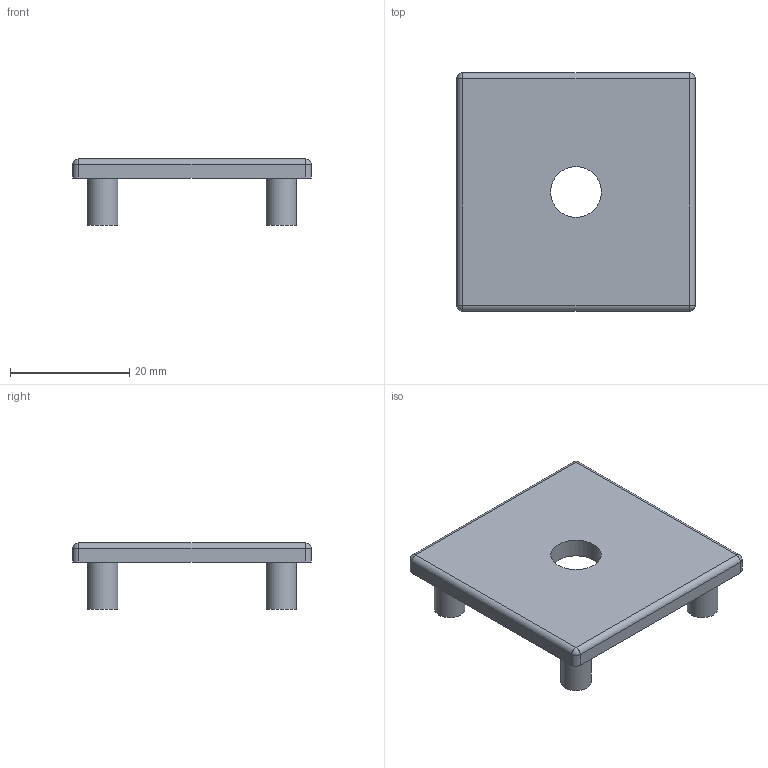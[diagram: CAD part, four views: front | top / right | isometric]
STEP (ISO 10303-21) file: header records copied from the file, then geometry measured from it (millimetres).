
FILE_DESCRIPTION((''),'2;1');
FILE_NAME('C:\Vault Klient\Carryline std\100-2015.stp','2009-12-10T09:40:38',('Mathias'),(''),'Autodesk Inventor 2010','Autodesk Inventor 2010','');
FILE_SCHEMA(('CONFIG_CONTROL_DESIGN'));
Length unit declared in the file: millimetre
Products named in the file (1): 100-2015
Bounding box: 40 x 40 x 11.1 mm (x, y, z)
Volume: 5547.6 mm3; surface area: 4114.6 mm2
Topology: 1 solids, 1 shells, 27 faces, 56 edges, 31 vertices
Faces by surface type: cylinder 12, plane 10, sphere 4, bspline 1
Full cylindrical faces by diameter (mm): 5.1 x4
Entity records: 693 total; most frequent: DIRECTION 126, CARTESIAN_POINT 121, ORIENTED_EDGE 92, AXIS2_PLACEMENT_3D 53, EDGE_CURVE 46, EDGE_LOOP 38, VERTEX_POINT 30, FACE_OUTER_BOUND 27
